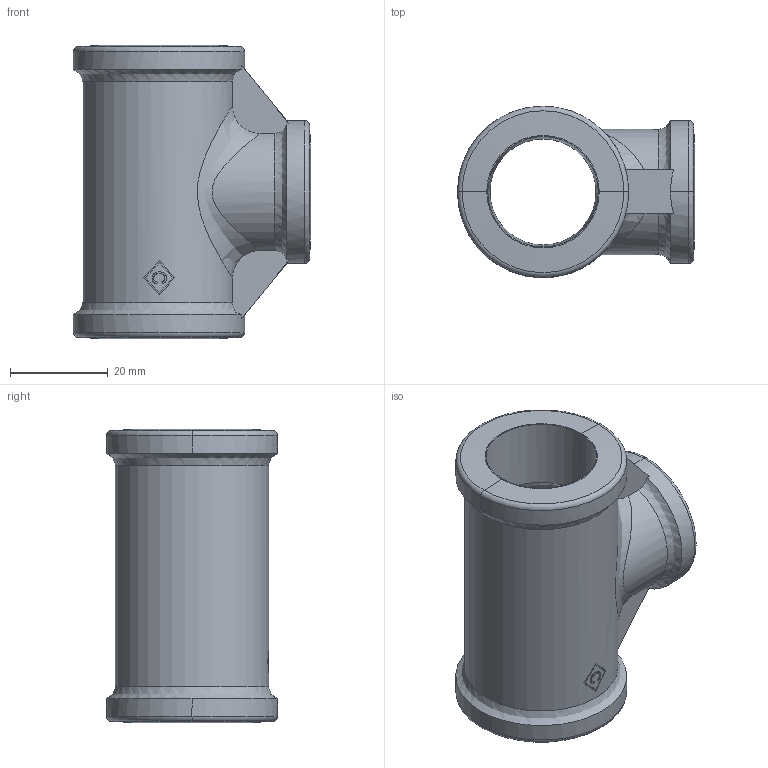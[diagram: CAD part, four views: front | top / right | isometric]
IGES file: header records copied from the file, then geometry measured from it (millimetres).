
Global section: file name: No Iges File Name specified; native system: AutoDesk Inventor R12.0; preprocessor: AutoDesk Inventor Iges Exporter R12.0; date: 20090916.114533; units: millimetre
Bounding box: 48.5 x 35 x 60 mm (x, y, z)
Volume: 27004.5 mm3; surface area: 14146.2 mm2
Topology: 1 solids, 1 shells, 80 faces, 204 edges, 128 vertices
Faces by surface type: bspline 28, plane 19, cylinder 12, revolution 9, cone 6, torus 6
